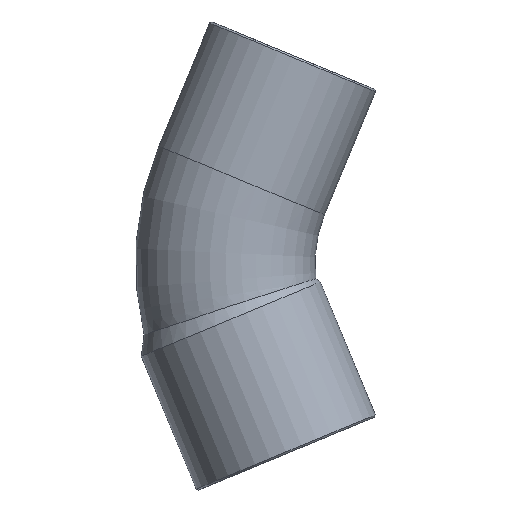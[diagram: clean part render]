
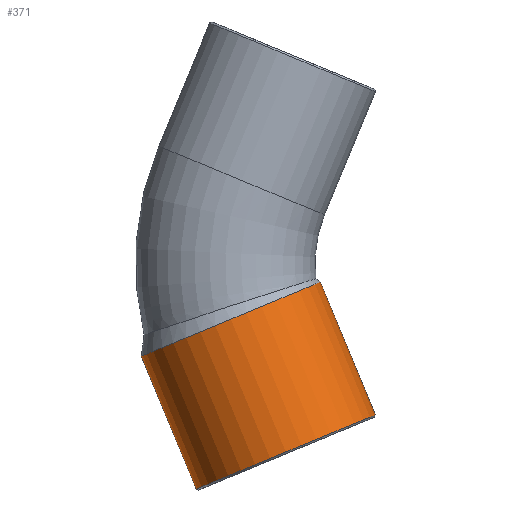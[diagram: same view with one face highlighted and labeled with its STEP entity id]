
A CAD part, front view. The second image highlights one B-rep face of the part: STEP entity #371.
In plain terms, the highlighted cylindrical face has radius 10.8 mm (diameter 21.6 mm), a partial arc.
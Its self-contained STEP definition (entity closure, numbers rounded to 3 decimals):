
#178=CARTESIAN_POINT('',(-28.924,0.,-10.402));
#179=VERTEX_POINT('',#178);
#186=CARTESIAN_POINT('',(-8.968,0.,-2.136));
#187=VERTEX_POINT('',#186);
#188=CARTESIAN_POINT('',(-18.946,0.,-6.269));
#189=DIRECTION('',(-0.383,0.,0.924));
#190=DIRECTION('',(0.924,0.0,0.383));
#191=AXIS2_PLACEMENT_3D('',#188,#189,#190);
#192=CIRCLE('',#191,10.8);
#193=EDGE_CURVE('',#179,#187,#192,.T.);
#340=CARTESIAN_POINT('',(-18.864,0.,-6.467));
#341=DIRECTION('',(0.383,0.,-0.924));
#342=DIRECTION('',(0.924,0.0,0.383));
#343=AXIS2_PLACEMENT_3D('',#340,#341,#342);
#344=CYLINDRICAL_SURFACE('',#343,10.8);
#345=CARTESIAN_POINT('',(-2.839,0.,-16.931));
#346=VERTEX_POINT('',#345);
#347=CARTESIAN_POINT('',(-8.968,0.,-2.136));
#348=DIRECTION('',(0.383,0.,-0.924));
#349=VECTOR('',#348,16.014);
#350=LINE('',#347,#349);
#351=EDGE_CURVE('',#187,#346,#350,.T.);
#352=ORIENTED_EDGE('',*,*,#351,.F.);
#353=ORIENTED_EDGE('',*,*,#193,.F.);
#354=CARTESIAN_POINT('',(-22.795,0.,-25.197));
#355=VERTEX_POINT('',#354);
#356=CARTESIAN_POINT('',(-22.795,0.,-25.197));
#357=DIRECTION('',(-0.383,0.,0.924));
#358=VECTOR('',#357,16.014);
#359=LINE('',#356,#358);
#360=EDGE_CURVE('',#355,#179,#359,.T.);
#361=ORIENTED_EDGE('',*,*,#360,.F.);
#362=CARTESIAN_POINT('',(-12.817,0.,-21.064));
#363=DIRECTION('',(0.383,0.,-0.924));
#364=DIRECTION('',(0.924,0.0,0.383));
#365=AXIS2_PLACEMENT_3D('',#362,#363,#364);
#366=CIRCLE('',#365,10.8);
#367=EDGE_CURVE('',#346,#355,#366,.T.);
#368=ORIENTED_EDGE('',*,*,#367,.F.);
#369=EDGE_LOOP('',(#352,#353,#361,#368));
#370=FACE_OUTER_BOUND('',#369,.T.);
#371=ADVANCED_FACE('',(#370),#344,.T.);
